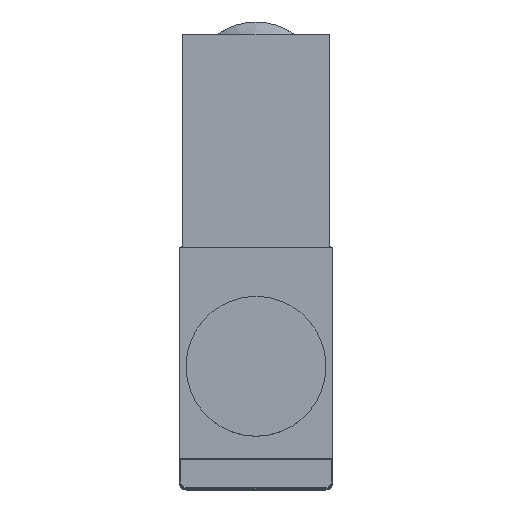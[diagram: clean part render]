
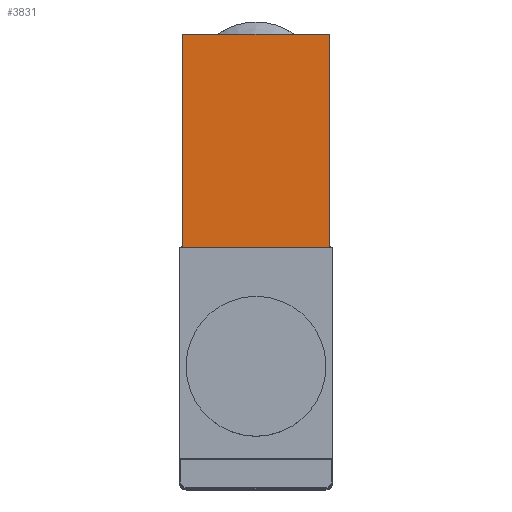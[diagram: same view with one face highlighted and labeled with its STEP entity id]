
A CAD part, top view. The second image highlights one B-rep face of the part: STEP entity #3831.
In plain terms, the highlighted planar face has unit normal (0, 0, 1).
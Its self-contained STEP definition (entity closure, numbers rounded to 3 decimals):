
#68 = AXIS2_PLACEMENT_3D ( 'NONE', #4865, #4356, #728 ) ;
#331 = CARTESIAN_POINT ( 'NONE',  ( -10.5, 47.5, 78.7 ) ) ;
#407 = VECTOR ( 'NONE', #3806, 1000. ) ;
#725 = CARTESIAN_POINT ( 'NONE',  ( -10.5, 17., 78.7 ) ) ;
#728 = DIRECTION ( 'NONE',  ( -1., 0., 0. ) ) ;
#995 = DIRECTION ( 'NONE',  ( -1., 0., 0. ) ) ;
#1586 = FACE_OUTER_BOUND ( 'NONE', #2572, .T. ) ;
#1593 = EDGE_CURVE ( 'NONE', #4593, #3872, #4672, .T. ) ;
#1711 = VERTEX_POINT ( 'NONE', #725 ) ;
#1853 = EDGE_CURVE ( 'NONE', #4004, #1711, #2768, .T. ) ;
#2044 = DIRECTION ( 'NONE',  ( -1., 0., 0. ) ) ;
#2241 = ORIENTED_EDGE ( 'NONE', *, *, #1593, .T. ) ;
#2282 = DIRECTION ( 'NONE',  ( 0., -1., 0. ) ) ;
#2367 = CARTESIAN_POINT ( 'NONE',  ( 0., 17., 78.7 ) ) ;
#2539 = LINE ( 'NONE', #4154, #407 ) ;
#2572 = EDGE_LOOP ( 'NONE', ( #2663, #5211, #2241, #4265 ) ) ;
#2663 = ORIENTED_EDGE ( 'NONE', *, *, #1853, .F. ) ;
#2717 = VECTOR ( 'NONE', #2282, 1000. ) ;
#2744 = PLANE ( 'NONE',  #68 ) ;
#2768 = LINE ( 'NONE', #2367, #3369 ) ;
#2839 = EDGE_CURVE ( 'NONE', #4593, #4004, #3034, .T. ) ;
#3034 = LINE ( 'NONE', #4694, #2717 ) ;
#3134 = CARTESIAN_POINT ( 'NONE',  ( 10.5, 17., 78.7 ) ) ;
#3148 = EDGE_CURVE ( 'NONE', #3872, #1711, #2539, .T. ) ;
#3369 = VECTOR ( 'NONE', #2044, 1000. ) ;
#3469 = CARTESIAN_POINT ( 'NONE',  ( 10.5, 47.5, 78.7 ) ) ;
#3801 = VECTOR ( 'NONE', #995, 1000. ) ;
#3806 = DIRECTION ( 'NONE',  ( 0., -1., 0. ) ) ;
#3831 = ADVANCED_FACE ( 'NONE', ( #1586 ), #2744, .T. ) ;
#3872 = VERTEX_POINT ( 'NONE', #331 ) ;
#4004 = VERTEX_POINT ( 'NONE', #3134 ) ;
#4154 = CARTESIAN_POINT ( 'NONE',  ( -10.5, 47.5, 78.7 ) ) ;
#4265 = ORIENTED_EDGE ( 'NONE', *, *, #3148, .T. ) ;
#4356 = DIRECTION ( 'NONE',  ( 0., 0., 1. ) ) ;
#4593 = VERTEX_POINT ( 'NONE', #5006 ) ;
#4672 = LINE ( 'NONE', #3469, #3801 ) ;
#4694 = CARTESIAN_POINT ( 'NONE',  ( 10.5, 47.5, 78.7 ) ) ;
#4865 = CARTESIAN_POINT ( 'NONE',  ( 10.5, 47.5, 78.7 ) ) ;
#5006 = CARTESIAN_POINT ( 'NONE',  ( 10.5, 47.5, 78.7 ) ) ;
#5211 = ORIENTED_EDGE ( 'NONE', *, *, #2839, .F. ) ;
